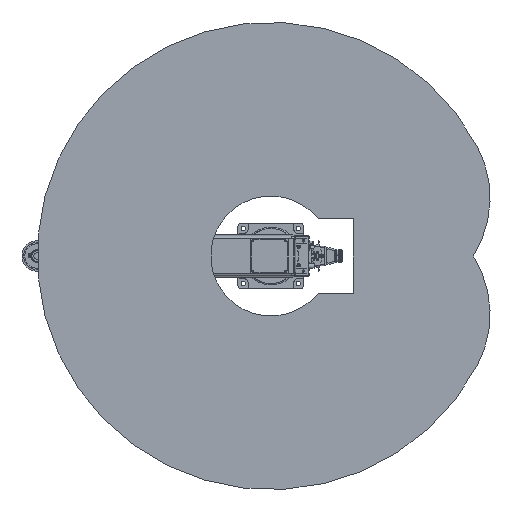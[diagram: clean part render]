
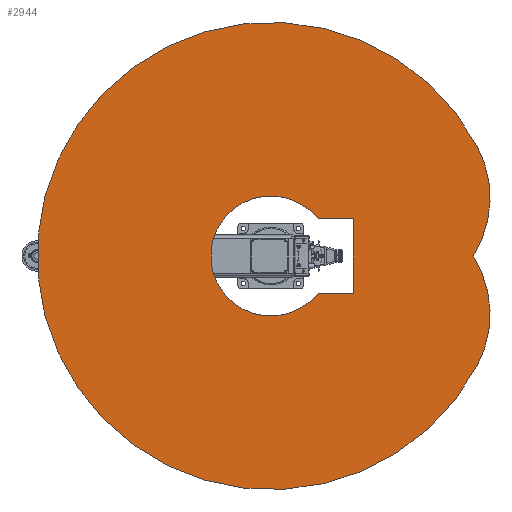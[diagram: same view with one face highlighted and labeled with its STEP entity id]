
A CAD part, front view. The second image highlights one B-rep face of the part: STEP entity #2944.
In plain terms, the highlighted planar face has unit normal (0, -1, 0).
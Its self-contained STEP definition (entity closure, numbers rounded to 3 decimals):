
#2944 = ADVANCED_FACE( '', ( #8213, #8214 ), #8215, .F. );
#8213 = FACE_BOUND( '', #16860, .T. );
#8214 = FACE_OUTER_BOUND( '', #16861, .T. );
#8215 = PLANE( '', #16862 );
#16860 = EDGE_LOOP( '', ( #27244, #27245, #27246, #27247 ) );
#16861 = EDGE_LOOP( '', ( #27248, #27249, #27250 ) );
#16862 = AXIS2_PLACEMENT_3D( '', #27251, #27252, #27253 );
#27244 = ORIENTED_EDGE( '', *, *, #47614, .T. );
#27245 = ORIENTED_EDGE( '', *, *, #47615, .T. );
#27246 = ORIENTED_EDGE( '', *, *, #47616, .T. );
#27247 = ORIENTED_EDGE( '', *, *, #47617, .T. );
#27248 = ORIENTED_EDGE( '', *, *, #47618, .F. );
#27249 = ORIENTED_EDGE( '', *, *, #47619, .F. );
#27250 = ORIENTED_EDGE( '', *, *, #47620, .F. );
#27251 = CARTESIAN_POINT( '', ( 105.631, 0., 198.663 ) );
#27252 = DIRECTION( '', ( 0., 1., 0. ) );
#27253 = DIRECTION( '', ( 0., 0., 1. ) );
#47614 = EDGE_CURVE( '', #56142, #56143, #56144, .T. );
#47615 = EDGE_CURVE( '', #56143, #56145, #56146, .T. );
#47616 = EDGE_CURVE( '', #56145, #56147, #56148, .T. );
#47617 = EDGE_CURVE( '', #56147, #56142, #56149, .T. );
#47618 = EDGE_CURVE( '', #56150, #56151, #56152, .T. );
#47619 = EDGE_CURVE( '', #56153, #56150, #56154, .T. );
#47620 = EDGE_CURVE( '', #56151, #56153, #56155, .T. );
#56142 = VERTEX_POINT( '', #68706 );
#56143 = VERTEX_POINT( '', #68707 );
#56144 = LINE( '', #68708, #68709 );
#56145 = VERTEX_POINT( '', #68710 );
#56146 = CIRCLE( '', #68711, 218.3 );
#56147 = VERTEX_POINT( '', #68712 );
#56148 = LINE( '', #68713, #68714 );
#56149 = LINE( '', #68715, #68716 );
#56150 = VERTEX_POINT( '', #68717 );
#56151 = VERTEX_POINT( '', #68718 );
#56152 = CIRCLE( '', #68719, 400. );
#56153 = VERTEX_POINT( '', #68720 );
#56154 = CIRCLE( '', #68721, 400. );
#56155 = CIRCLE( '', #68722, 850. );
#68706 = CARTESIAN_POINT( '', ( 135., 0., 300. ) );
#68707 = CARTESIAN_POINT( '', ( 135., 0., 171.551 ) );
#68708 = CARTESIAN_POINT( '', ( 135., 0., 300. ) );
#68709 = VECTOR( '', #87216, 1000. );
#68710 = CARTESIAN_POINT( '', ( -135., 0., 171.551 ) );
#68711 = AXIS2_PLACEMENT_3D( '', #87217, #87218, #87219 );
#68712 = CARTESIAN_POINT( '', ( -135., 0., 300. ) );
#68713 = CARTESIAN_POINT( '', ( -135., 0., 171.551 ) );
#68714 = VECTOR( '', #87220, 1000. );
#68715 = CARTESIAN_POINT( '', ( -135., 0., 300. ) );
#68716 = VECTOR( '', #87221, 1000. );
#68717 = CARTESIAN_POINT( '', ( 0., 0., 736.985 ) );
#68718 = CARTESIAN_POINT( '', ( 399.051, 0., 750.505 ) );
#68719 = AXIS2_PLACEMENT_3D( '', #87222, #87223, #87224 );
#68720 = CARTESIAN_POINT( '', ( -399.051, 0., 750.505 ) );
#68721 = AXIS2_PLACEMENT_3D( '', #87225, #87226, #87227 );
#68722 = AXIS2_PLACEMENT_3D( '', #87228, #87229, #87230 );
#87216 = DIRECTION( '', ( 0., 0., -1. ) );
#87217 = CARTESIAN_POINT( '', ( 0., 0., 0. ) );
#87218 = DIRECTION( '', ( 0., 1., 0. ) );
#87219 = DIRECTION( '', ( 1., 0., 0. ) );
#87220 = DIRECTION( '', ( 0., 0., 1. ) );
#87221 = DIRECTION( '', ( 1., 0., 0. ) );
#87222 = CARTESIAN_POINT( '', ( 211.262, 0., 397.326 ) );
#87223 = DIRECTION( '', ( 0., 1., 0. ) );
#87224 = DIRECTION( '', ( 1., 0., 0. ) );
#87225 = CARTESIAN_POINT( '', ( -211.262, 0., 397.326 ) );
#87226 = DIRECTION( '', ( 0., 1., 0. ) );
#87227 = DIRECTION( '', ( 1., 0., 0. ) );
#87228 = CARTESIAN_POINT( '', ( 0., 0., 0. ) );
#87229 = DIRECTION( '', ( 0., 1., 0. ) );
#87230 = DIRECTION( '', ( 1., 0., 0. ) );
